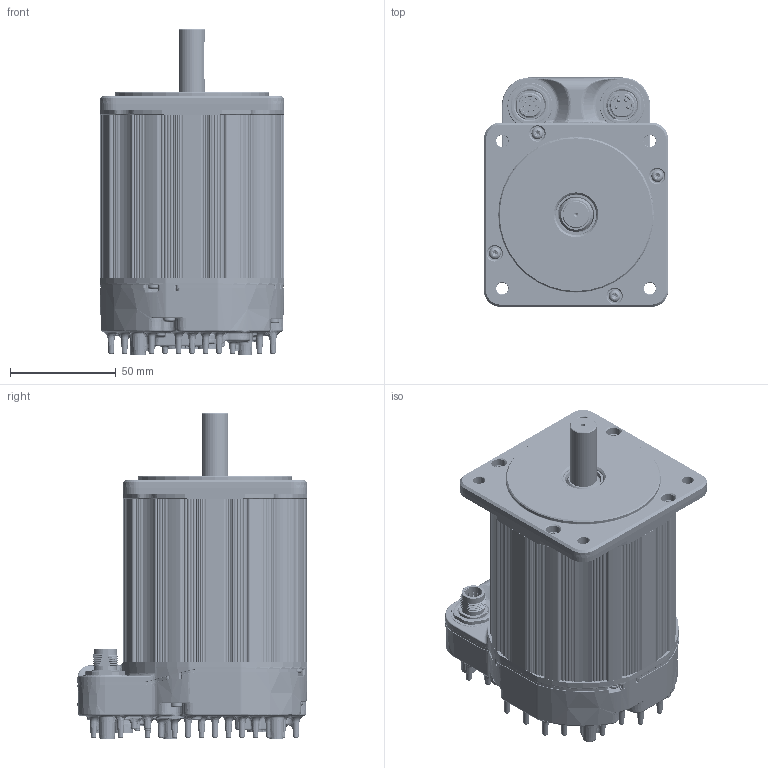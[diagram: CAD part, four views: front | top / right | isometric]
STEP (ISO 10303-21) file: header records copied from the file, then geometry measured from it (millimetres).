
FILE_DESCRIPTION (( 'STEP AP214' ), '1' );
FILE_NAME ('CPMS 343x.STEP', '2023-08-08T19:37:53', ( '' ), ( '' ), 'SwSTEP 2.0', 'SolidWorks 2020', '' );
FILE_SCHEMA (( 'AUTOMOTIVE_DESIGN' ));
Length unit declared in the file: inch
Products named in the file (1): CPMS 343x
Bounding box: 86.87 x 108.59 x 153.98 mm (x, y, z)
Volume: 300714.9 mm3; surface area: 189070.7 mm2
Topology: 33 solids, 41 shells, 10862 faces, 27439 edges, 16323 vertices
Faces by surface type: cylinder 4012, bspline 2739, torus 1384, plane 1351, cone 1287, sphere 89
Entity records: 802258 total; most frequent: CARTESIAN_POINT 429375, ORIENTED_EDGE 53748, DIRECTION 42312, EDGE_CURVE 26874, AXIS2_PLACEMENT_3D 17482, VERTEX_POINT 16314, EDGE_LOOP 11474, LENGTH_MEASURE_WITH_UNIT 10891
